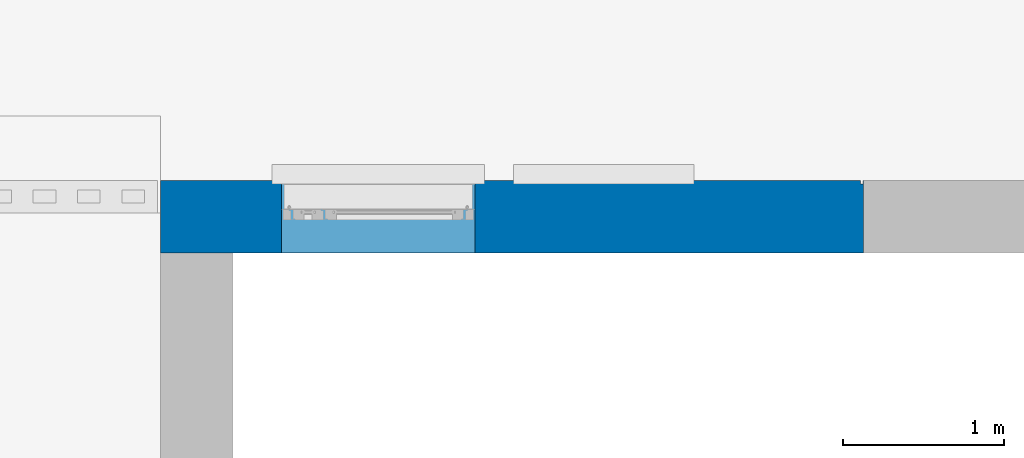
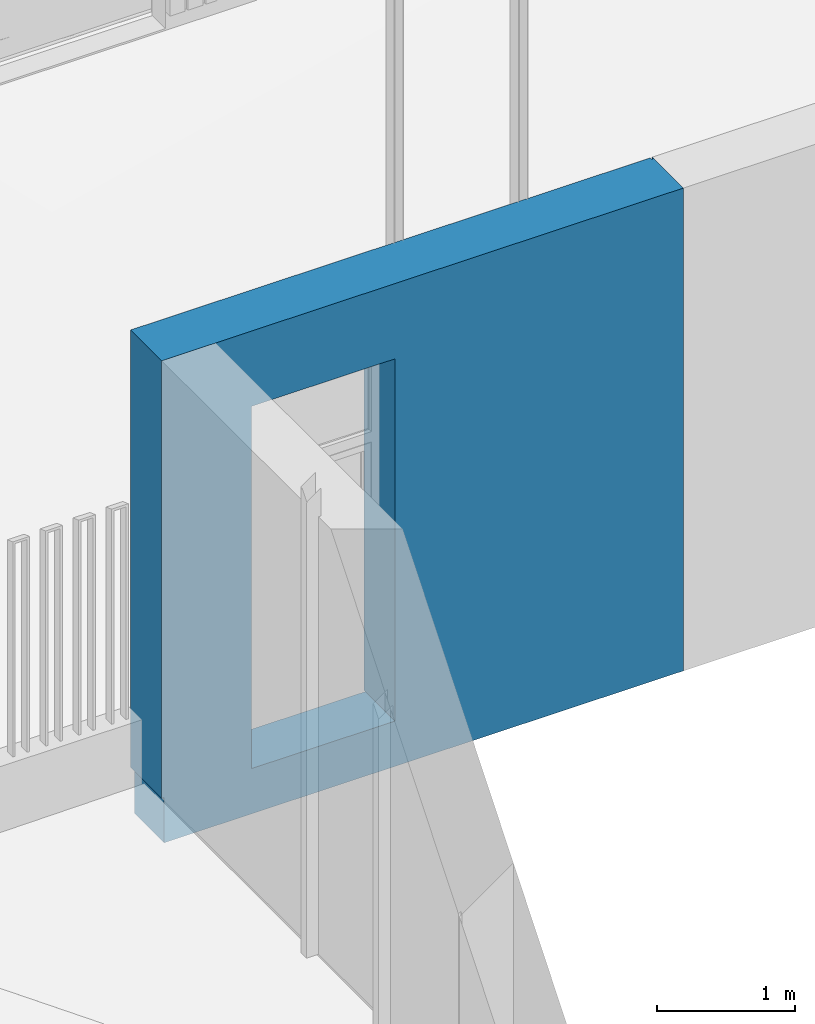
# One storey, part 23 of 77: 1 wall, 3 openings.
"""IFC2X3 building model written with IfcOpenShell, lengths in millimetres."""

import ifcopenshell
import ifcopenshell.guid

model = None  # the IFC model being written
_history = None  # IfcOwnerHistory: only IFC2X3 demands one
_inside = {}  # id of a spatial element -> (the spatial element, [elements in it])
_under = {}  # id of a project, library or spatial element -> (it, [spatial elements below it])
_declared = {}  # id of a project -> (the project, [libraries it declares])
_typed = {}  # id of a type object -> (the type object, [elements of that type])
_made_of = {}  # id of a material, layer set ... -> (it, [elements and type objects made of it])


def new_model(schema):
    """Start an empty IFC model of exactly this schema.

    Asked for "IFC4X3", IfcOpenShell would pick the latest addendum, in which some entities
    have other attributes; the version numbers below select the first issue.
    IFC2X3 requires an IfcOwnerHistory on every rooted entity: one is made here for all.
    """
    global model, _history
    if schema == "IFC4X3":
        model = ifcopenshell.file(schema_version=(4, 3, 0, 0))
    else:
        model = ifcopenshell.file(schema=schema)
    _inside.clear()
    _under.clear()
    _declared.clear()
    _typed.clear()
    _made_of.clear()
    _history = None
    if model.schema == "IFC2X3":
        org = make("IfcOrganization", Name="unknown")
        user = make(
            "IfcPersonAndOrganization",
            ThePerson=make("IfcPerson", FamilyName="unknown"),
            TheOrganization=org,
        )
        app = make(
            "IfcApplication",
            ApplicationDeveloper=org,
            Version="unknown",
            ApplicationFullName="unknown",
            ApplicationIdentifier="unknown",
        )
        _history = make(
            "IfcOwnerHistory",
            OwningUser=user,
            OwningApplication=app,
            ChangeAction="ADDED",
            CreationDate=0,
        )
    return model


def make(cls, **values):
    """One entity of the class cls with the attributes given. An attribute that is None is left unset."""
    return model.create_entity(
        cls, **{name: value for name, value in values.items() if value is not None}
    )


def entity(cls, *values):
    """Any entity or typed value of the class cls, its attributes in the order of the schema. None: left unset."""
    e = model.create_entity(cls)
    for i, value in enumerate(values):
        if value is not None:
            e[i] = value
    return e


def rooted(cls, **values):
    """An entity with a GlobalId (a new one), such as an element, a storey or a relation."""
    return make(cls, GlobalId=ifcopenshell.guid.new(), OwnerHistory=_history, **values)


def si_unit(unit_type, name, prefix=None):
    """IfcSIUnit, for example si_unit("LENGTHUNIT", "METRE", prefix="MILLI")."""
    return make("IfcSIUnit", UnitType=unit_type, Prefix=prefix, Name=name)


def converted_unit(unit_type, name, factor, base, dimensions=None, offset=None):
    """IfcConversionBasedUnit, such as the inch: factor (a typed value) times the base unit."""
    return make(
        "IfcConversionBasedUnit"
        if offset is None
        else "IfcConversionBasedUnitWithOffset",
        ConversionOffset=offset,
        Dimensions=None
        if dimensions is None
        else entity("IfcDimensionalExponents", *dimensions),
        UnitType=unit_type,
        Name=name,
        ConversionFactor=make(
            "IfcMeasureWithUnit", ValueComponent=factor, UnitComponent=base
        ),
    )


def derived_unit(unit_type, elements):
    """IfcDerivedUnit: a product of units, each with its exponent."""
    return make(
        "IfcDerivedUnit",
        Elements=[
            make("IfcDerivedUnitElement", Unit=unit, Exponent=power)
            for unit, power in elements
        ],
        UnitType=unit_type,
    )


def assignment(units):
    """IfcUnitAssignment: the units of a project."""
    return None if units is None else make("IfcUnitAssignment", Units=units)


def point(xyz):
    """IfcCartesianPoint."""
    return None if xyz is None else make("IfcCartesianPoint", Coordinates=xyz)


def direction(xyz):
    """IfcDirection."""
    return None if xyz is None else make("IfcDirection", DirectionRatios=xyz)


def frame(location, z_axis=None, x_axis=None):
    """IfcAxis2Placement3D, a coordinate frame: its origin and axes. An axis left out is left unset."""
    return make(
        "IfcAxis2Placement3D",
        Location=point(location),
        Axis=direction(z_axis),
        RefDirection=direction(x_axis),
    )


def frame_2d(location, x_axis=None):
    """IfcAxis2Placement2D, a coordinate frame in the plane: its origin and x axis."""
    return make(
        "IfcAxis2Placement2D", Location=point(location), RefDirection=direction(x_axis)
    )


def origin():
    """The frame at (0, 0, 0) with its axes left unset."""
    return frame((0.0, 0.0, 0.0))


def place(relative_to, where):
    """IfcLocalPlacement: puts the frame where relative to a parent placement (None: the world)."""
    return make(
        "IfcLocalPlacement", PlacementRelTo=relative_to, RelativePlacement=where
    )


def context(
    kind, dimensions, precision=None, world=None, true_north=None, identifier=None
):
    """IfcGeometricRepresentationContext, for example the 3D "Model" context."""
    return make(
        "IfcGeometricRepresentationContext",
        ContextIdentifier=identifier,
        ContextType=kind,
        CoordinateSpaceDimension=dimensions,
        Precision=precision,
        WorldCoordinateSystem=world,
        TrueNorth=true_north,
    )


def subcontext(parent, identifier, kind, view, scale=None):
    """IfcGeometricRepresentationSubContext, for example "Body" below "Model"."""
    return make(
        "IfcGeometricRepresentationSubContext",
        ContextIdentifier=identifier,
        ContextType=kind,
        ParentContext=parent,
        TargetScale=scale,
        TargetView=view,
    )


def project(units=None, contexts=None):
    """IfcProject with its units and contexts."""
    return rooted(
        "IfcProject",
        Name="project",
        RepresentationContexts=contexts,
        UnitsInContext=assignment(units),
    )


def spatial(cls, under=None, at=None, **own):
    """A site, building, storey or space (cls), placed at a placement, below another one or the project."""
    s = rooted(cls, ObjectPlacement=at, **own)
    if under is not None:
        _under.setdefault(under.id(), (under, []))[1].append(s)
    return s


def profile(cls, at=None, kind="AREA", **sizes):
    """A parametric profile (cls). Its sizes go by their IFC names, for example OverallWidth=200.0."""
    return make(cls, ProfileType=kind, Position=at, **sizes)


def rectangle(**sizes):
    """IfcRectangleProfileDef."""
    return profile("IfcRectangleProfileDef", **sizes)


def extrude(swept, where, along, depth):
    """IfcExtrudedAreaSolid: the profile swept, set in the frame where, extruded along a direction by depth."""
    return make(
        "IfcExtrudedAreaSolid",
        SweptArea=swept,
        Position=where,
        ExtrudedDirection=direction(along),
        Depth=depth,
    )


def faces_of(points, faces, orient=None, outer=None):
    """IfcFace entities. A face is a list of loops; a loop is a list of indices into points, from 0.

    orient and outer hold one flag for each loop. By default every Orientation is true, the
    first loop of a face is its IfcFaceOuterBound and the others are IfcFaceBound.
    """
    made = []
    for i, loops in enumerate(faces):
        bounds = []
        for j, loop in enumerate(loops):
            is_outer = j == 0 if outer is None else outer[i][j]
            bounds.append(
                make(
                    "IfcFaceOuterBound" if is_outer else "IfcFaceBound",
                    Bound=make("IfcPolyLoop", Polygon=[points[k] for k in loop]),
                    Orientation=True if orient is None else orient[i][j],
                )
            )
        made.append(make("IfcFace", Bounds=bounds))
    return made


def faceted_brep(points, faces, orient=None, outer=None, voids=None):
    """IfcFacetedBrep: a solid bounded by flat faces; with voids (closed shells), ...WithVoids."""
    shared = [point(p) for p in points]
    hull = make("IfcClosedShell", CfsFaces=faces_of(shared, faces, orient, outer))
    if voids is None:
        return make("IfcFacetedBrep", Outer=hull)
    return make(
        "IfcFacetedBrepWithVoids",
        Outer=hull,
        Voids=[
            make(cls, CfsFaces=faces_of(shared, fs, o, b)) for cls, fs, o, b in voids
        ],
    )


def shape(context_of_items, identifier, shape_type, items):
    """IfcShapeRepresentation: the items that make up one representation, for example the "Body"."""
    return make(
        "IfcShapeRepresentation",
        ContextOfItems=context_of_items,
        RepresentationIdentifier=identifier,
        RepresentationType=shape_type,
        Items=items,
    )


def material(Name=None, Category=None):
    """IfcMaterial."""
    return make("IfcMaterial", Name=Name, Category=Category)


def layer(
    of_material, thickness, ventilated=None, Name=None, Category=None, Priority=None
):
    """IfcMaterialLayer: one layer of a wall or slab, of a material (None: an air gap)."""
    return make(
        "IfcMaterialLayer",
        Material=of_material,
        LayerThickness=thickness,
        IsVentilated=ventilated,
        Name=Name,
        Category=Category,
        Priority=Priority,
    )


def layer_set(layers, Name=None):
    """IfcMaterialLayerSet."""
    return make("IfcMaterialLayerSet", MaterialLayers=layers, LayerSetName=Name)


def layer_usage(for_layer_set, set_direction, sense, offset, extent=None):
    """IfcMaterialLayerSetUsage: how a layer set lies in its element."""
    return make(
        "IfcMaterialLayerSetUsage",
        ForLayerSet=for_layer_set,
        LayerSetDirection=set_direction,
        DirectionSense=sense,
        OffsetFromReferenceLine=offset,
        ReferenceExtent=extent,
    )


def made_of(thing, what):
    """Note that an element or type object is made of a material, layer set ...; save() writes the relation."""
    if what is not None:
        _made_of.setdefault(what.id(), (what, []))[1].append(thing)
    return thing


def type_object(cls, material=None, **own):
    """A type object (cls), such as IfcWallType, which elements share."""
    return made_of(rooted(cls, **own), material)


def element(
    cls,
    number,
    at=None,
    inside=None,
    cuts=None,
    type_object=None,
    material=None,
    context=None,
    identifier="Body",
    shape_type=None,
    held_by="IfcProductDefinitionShape",
    body=None,
    shapes=None,
    **own,
):
    """One element of the class cls, such as IfcWall. Its Tag is "e" and its number.

    at: its placement. inside: the storey or other place that contains it. cuts: it is an
    opening in that element (IfcRelVoidsElement). A single representation is given by context,
    identifier, shape_type and body (its items); several are given by shapes. held_by: the class
    of the entity that holds the representations. save() writes the other relations.
    """
    e = rooted(cls, Tag="e%d" % number, ObjectPlacement=at, **own)
    if body is not None:
        shapes = [shape(context, identifier, shape_type, body)]
    if shapes is not None:
        e.Representation = make(held_by, Representations=shapes)
    if inside is not None:
        _inside.setdefault(inside.id(), (inside, []))[1].append(e)
    if cuts is not None:
        rooted(
            "IfcRelVoidsElement", RelatingBuildingElement=cuts, RelatedOpeningElement=e
        )
    if type_object is not None:
        _typed.setdefault(type_object.id(), (type_object, []))[1].append(e)
    return made_of(e, material)


def aggregate(whole, parts):
    """IfcRelAggregates: a whole, such as a stair, and the parts it consists of."""
    return rooted("IfcRelAggregates", RelatingObject=whole, RelatedObjects=parts)


def save(model, path):
    """Write the relations noted so far, then the file.

    IfcRelAggregates (storeys below a building ...), IfcRelContainedInSpatialStructure (elements
    in a storey), IfcRelDefinesByType, IfcRelAssociatesMaterial and IfcRelDeclares: one each for
    every whole, place, type object, material and project.
    """
    for whole, parts in _under.values():
        aggregate(whole, parts)
    for where, things in _inside.values():
        rooted(
            "IfcRelContainedInSpatialStructure",
            RelatedElements=things,
            RelatingStructure=where,
        )
    for kind, things in _typed.values():
        rooted("IfcRelDefinesByType", RelatedObjects=things, RelatingType=kind)
    for what, things in _made_of.values():
        rooted("IfcRelAssociatesMaterial", RelatedObjects=things, RelatingMaterial=what)
    for by, libraries in _declared.values():
        rooted("IfcRelDeclares", RelatingContext=by, RelatedDefinitions=libraries)
    model.write(path)


model = new_model("IFC2X3")

# Units and contexts
model_context = context("Model", 3, precision=0.01, world=origin(), true_north=direction((6.12303176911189e-17, 1.0)))
body_context = subcontext(model_context, "Body", "Model", "MODEL_VIEW")
ifc_project = project(units=[si_unit("LENGTHUNIT", "METRE", prefix="MILLI"), si_unit("AREAUNIT", "SQUARE_METRE"), si_unit("VOLUMEUNIT", "CUBIC_METRE"), converted_unit("PLANEANGLEUNIT", "DEGREE", entity("IfcRatioMeasure", 0.0174532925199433), si_unit("PLANEANGLEUNIT", "RADIAN"), dimensions=[0, 0, 0, 0, 0, 0, 0]), si_unit("MASSUNIT", "GRAM", prefix="KILO"), derived_unit("MASSDENSITYUNIT", [(si_unit("MASSUNIT", "GRAM", prefix="KILO"), 1), (si_unit("LENGTHUNIT", "METRE"), -3)]), si_unit("TIMEUNIT", "SECOND"), si_unit("FREQUENCYUNIT", "HERTZ"), si_unit("THERMODYNAMICTEMPERATUREUNIT", "DEGREE_CELSIUS"), derived_unit("THERMALTRANSMITTANCEUNIT", [(si_unit("MASSUNIT", "GRAM", prefix="KILO"), 1), (si_unit("THERMODYNAMICTEMPERATUREUNIT", "KELVIN"), -1), (si_unit("TIMEUNIT", "SECOND"), -3)]), derived_unit("VOLUMETRICFLOWRATEUNIT", [(si_unit("LENGTHUNIT", "METRE"), 3), (si_unit("TIMEUNIT", "SECOND"), -1)]), si_unit("ELECTRICCURRENTUNIT", "AMPERE"), si_unit("ELECTRICVOLTAGEUNIT", "VOLT"), si_unit("POWERUNIT", "WATT"), si_unit("FORCEUNIT", "NEWTON", prefix="KILO"), si_unit("ILLUMINANCEUNIT", "LUX"), si_unit("LUMINOUSFLUXUNIT", "LUMEN"), si_unit("LUMINOUSINTENSITYUNIT", "CANDELA"), derived_unit("USERDEFINED", [(si_unit("MASSUNIT", "GRAM", prefix="KILO"), -1), (si_unit("LENGTHUNIT", "METRE"), -2), (si_unit("TIMEUNIT", "SECOND"), 3), (si_unit("LUMINOUSFLUXUNIT", "LUMEN"), 1)]), derived_unit("LINEARVELOCITYUNIT", [(si_unit("LENGTHUNIT", "METRE"), 1), (si_unit("TIMEUNIT", "SECOND"), -1)]), si_unit("PRESSUREUNIT", "PASCAL"), derived_unit("USERDEFINED", [(si_unit("LENGTHUNIT", "METRE"), -2), (si_unit("MASSUNIT", "GRAM", prefix="KILO"), 1), (si_unit("TIMEUNIT", "SECOND"), -2)])], contexts=[model_context])

# Site, building, storey
site_placement = place(None, origin())
site = spatial("IfcSite", under=ifc_project, at=site_placement, Name="Default", CompositionType="ELEMENT")
building_placement = place(site_placement, origin())
building = spatial("IfcBuilding", under=site, at=building_placement, CompositionType="ELEMENT")
storey_placement = place(building_placement, origin())
storey = spatial("IfcBuildingStorey", under=building, at=storey_placement, Name="1. KORRUS", CompositionType="ELEMENT", Elevation=0.0)

# Wall, openings
ifc_material_1 = material(Name="RECKLI 1 173 THUR by Polantis 2016-toon4")
ifc_layer_1 = layer(ifc_material_1, 100.0)
ifc_material_2 = material(Name="Soojusisolatsioon EPS")
ifc_layer_2 = layer(ifc_material_2, 200.0)
ifc_material_3 = material(Name="r/b")
ifc_layer_3 = layer(ifc_material_3, 150.0)
ifc_layer_set = layer_set([ifc_layer_1, ifc_layer_2, ifc_layer_3], Name="Basic Wall:VS-1_toon-a")
ifc_layer_usage = layer_usage(ifc_layer_set, "AXIS2", "NEGATIVE", 225.0)
wall_type = type_object("IfcWallType", Name="Basic Wall:VS-1_toon-a", PredefinedType="STANDARD", material=ifc_layer_set)
wall_placement = place(storey_placement, frame((-450.0, 27825.0, -400.0)))
wall = element("IfcWallStandardCase", 1, at=wall_placement, inside=storey, type_object=wall_type, material=ifc_layer_usage, Name="Basic Wall:VS-1_toon-a", ObjectType="Basic Wall:VS-1_toon-a", context=body_context, shape_type="SweptSolid", body=[
    extrude(rectangle(XDim=4360.0, YDim=450.000000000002, at=frame_2d((2180.0, -1.46371803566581e-12), x_axis=(-1.0, 0.0))), origin(), (0.0, 0.0, 1.0), 4265.0),
])
opening_1_placement = place(wall_placement, origin())
element("IfcOpeningElement", 2, at=opening_1_placement, cuts=wall, Name="Basic Wall:VS-1_toon-a", ObjectType="Opening", context=body_context, shape_type="Brep", body=[
    faceted_brep([(20.0, 205.0, 400.0), (20.0, 205.0, 0.0), (0.0, 225.0, 0.0), (0.0, 225.0, 400.0), (20.0, -4535.0, 400.0), (0.0, -4535.0, 400.0), (0.0, -4535.0, 0.0), (20.0, -4535.0, 0.0)], [[[0, 1, 2, 3]], [[4, 5, 6, 7]], [[1, 0, 4, 7]], [[2, 1, 7, 6]], [[3, 2, 6, 5]], [[0, 3, 5, 4]]]),
    faceted_brep([(20.0, 205.0, 400.0), (0.0, 225.0, 400.0), (0.0, 225.0, 0.0), (20.0, 205.0, 0.0), (4360.0, 205.0, 400.0), (4360.0, 205.0, 0.0), (4360.0, 225.0, 0.0), (4360.0, 225.0, 400.0)], [[[0, 1, 2, 3]], [[4, 5, 6, 7]], [[1, 0, 4, 7]], [[2, 1, 7, 6]], [[3, 2, 6, 5]], [[0, 3, 5, 4]]]),
    faceted_brep([(10080.0, 205.0, 400.0), (10100.0, 225.0, 400.0), (10100.0, 225.0, 0.0), (10080.0, 205.0, 0.0), (10080.0, -5894.94821928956, 400.0), (10080.0, -5894.94821928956, 0.0), (10100.0, -5874.94821928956, 0.0), (10100.0, -5874.94821928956, 400.0)], [[[0, 1, 2, 3]], [[4, 5, 6, 7]], [[1, 0, 4, 7]], [[2, 1, 7, 6]], [[3, 2, 6, 5]], [[0, 3, 5, 4]]]),
    faceted_brep([(14800.0, -5894.94821928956, 400.0), (14800.0, -5874.94821928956, 400.0), (14800.0, -5874.94821928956, 0.0), (14800.0, -5894.94821928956, 0.0), (15330.0, -5894.94821928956, 400.0), (15330.0, -5894.94821928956, 0.0), (15330.0, -5874.94821928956, 0.0), (15330.0, -5874.94821928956, 400.0)], [[[0, 1, 2, 3]], [[4, 5, 6, 7]], [[1, 0, 4, 7]], [[2, 1, 7, 6]], [[3, 2, 6, 5]], [[0, 3, 5, 4]]]),
    faceted_brep([(40380.0, -5894.94821928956, 400.0), (40400.0, -5874.94821928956, 400.0), (40400.0, -5874.94821928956, 0.0), (40380.0, -5894.94821928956, 0.0), (40380.0, -12035.0, 400.0), (40380.0, -12035.0, 0.0), (40400.0, -12035.0, 0.0), (40400.0, -12035.0, 400.0)], [[[0, 1, 2, 3]], [[4, 5, 6, 7]], [[1, 0, 4, 7]], [[2, 1, 7, 6]], [[3, 2, 6, 5]], [[0, 3, 5, 4]]]),
    faceted_brep([(40380.0, -28255.0, 400.0), (40400.0, -28275.0, 400.0), (40400.0, -28275.0, 0.0), (40380.0, -28255.0, 0.0), (35250.0, -28255.0, 400.0), (35250.0, -28255.0, 0.0), (35250.0, -28275.0, 0.0), (35250.0, -28275.0, 400.0)], [[[0, 1, 2, 3]], [[4, 5, 6, 7]], [[1, 0, 4, 7]], [[2, 1, 7, 6]], [[3, 2, 6, 5]], [[0, 3, 5, 4]]]),
    faceted_brep([(11850.0, -28255.0, 400.0), (11850.0, -28275.0, 400.0), (11850.0, -28275.0, 0.0), (11850.0, -28255.0, 0.0), (8065.0, -28255.0, 400.0), (8065.0, -28255.0, 0.0), (8065.0, -28275.0, 0.0), (8065.0, -28275.0, 400.0)], [[[0, 1, 2, 3]], [[4, 5, 6, 7]], [[1, 0, 4, 7]], [[2, 1, 7, 6]], [[3, 2, 6, 5]], [[0, 3, 5, 4]]]),
    faceted_brep([(40380.0, -15065.0, 400.0), (40400.0, -15065.0, 400.0), (40400.0, -15065.0, 0.0), (40380.0, -15065.0, 0.0), (40380.0, -19181.6699999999, 400.0), (40380.0, -19181.6699999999, 0.0), (40400.0, -19181.6699999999, 0.0), (40400.0, -19181.6699999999, 400.0)], [[[0, 1, 2, 3]], [[4, 5, 6, 7]], [[1, 0, 4, 7]], [[2, 1, 7, 6]], [[3, 2, 6, 5]], [[0, 3, 5, 4]]]),
    faceted_brep([(31650.0, -28255.0, 400.0), (31650.0, -28275.0, 400.0), (31650.0, -28275.0, 0.0), (31650.0, -28255.0, 0.0), (29250.0, -28255.0, 400.0), (29250.0, -28255.0, 0.0), (29250.0, -28275.0, 0.0), (29250.0, -28275.0, 400.0)], [[[0, 1, 2, 3]], [[4, 5, 6, 7]], [[1, 0, 4, 7]], [[2, 1, 7, 6]], [[3, 2, 6, 5]], [[0, 3, 5, 4]]]),
    faceted_brep([(4240.03082375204, -28255.0, 400.0), (4240.03082375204, -28275.0, 400.0), (4240.03082375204, -28275.0, 0.0), (4240.03082375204, -28255.0, 0.0), (1755.03082375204, -28255.0, 400.0), (1755.03082375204, -28255.0, 0.0), (1755.03082375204, -28275.0, 0.0), (1755.03082375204, -28275.0, 400.0)], [[[0, 1, 2, 3]], [[4, 5, 6, 7]], [[1, 0, 4, 7]], [[2, 1, 7, 6]], [[3, 2, 6, 5]], [[0, 3, 5, 4]]]),
    faceted_brep([(16450.0, -28255.0, 400.0), (16450.0, -28275.0, 400.0), (16450.0, -28275.0, 0.0), (16450.0, -28255.0, 0.0), (15450.0, -28255.0, 400.0), (15450.0, -28255.0, 0.0), (15450.0, -28275.0, 0.0), (15450.0, -28275.0, 400.0)], [[[0, 1, 2, 3]], [[4, 5, 6, 7]], [[1, 0, 4, 7]], [[2, 1, 7, 6]], [[3, 2, 6, 5]], [[0, 3, 5, 4]]]),
    faceted_brep([(21050.0316629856, -28255.0, 400.0), (21050.0316629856, -28275.0, 400.0), (21050.0316629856, -28275.0, 0.0), (21050.0316629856, -28255.0, 0.0), (20050.0, -28255.0, 400.0), (20050.0, -28255.0, 0.0), (20050.0, -28275.0, 0.0), (20050.0, -28275.0, 400.0)], [[[0, 1, 2, 3]], [[4, 5, 6, 7]], [[1, 0, 4, 7]], [[2, 1, 7, 6]], [[3, 2, 6, 5]], [[0, 3, 5, 4]]]),
    faceted_brep([(25650.0316629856, -28255.0, 400.0), (25650.0316629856, -28275.0, 400.0), (25650.0316629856, -28275.0, 0.0), (25650.0316629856, -28255.0, 0.0), (24650.0, -28255.0, 400.0), (24650.0, -28255.0, 0.0), (24650.0, -28275.0, 0.0), (24650.0, -28275.0, 400.0)], [[[0, 1, 2, 3]], [[4, 5, 6, 7]], [[1, 0, 4, 7]], [[2, 1, 7, 6]], [[3, 2, 6, 5]], [[0, 3, 5, 4]]]),
    faceted_brep([(40380.0, -23410.0, 400.0), (40400.0, -23410.0, 400.0), (40400.0, -23410.0, 0.0), (40380.0, -23410.0, 0.0), (40380.0, -28255.0, 400.0), (40380.0, -28255.0, 0.0), (40400.0, -28275.0, 0.0), (40400.0, -28275.0, 400.0)], [[[0, 1, 2, 3]], [[4, 5, 6, 7]], [[1, 0, 4, 7]], [[2, 1, 7, 6]], [[3, 2, 6, 5]], [[0, 3, 5, 4]]]),
    faceted_brep([(40380.0, -19181.6699999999, 400.0), (40400.0, -19181.6699999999, 400.0), (40400.0, -19181.6699999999, 0.0), (40380.0, -19181.6699999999, 0.0), (40380.0, -23410.0, 400.0), (40380.0, -23410.0, 0.0), (40400.0, -23410.0, 0.0), (40400.0, -23410.0, 400.0)], [[[0, 1, 2, 3]], [[4, 5, 6, 7]], [[1, 0, 4, 7]], [[2, 1, 7, 6]], [[3, 2, 6, 5]], [[0, 3, 5, 4]]]),
    faceted_brep([(40380.0, -12035.0, 400.0), (40400.0, -12035.0, 400.0), (40400.0, -12035.0, 0.0), (40380.0, -12035.0, 0.0), (40380.0, -15065.0, 400.0), (40380.0, -15065.0, 0.0), (40400.0, -15065.0, 0.0), (40400.0, -15065.0, 400.0)], [[[0, 1, 2, 3]], [[4, 5, 6, 7]], [[1, 0, 4, 7]], [[2, 1, 7, 6]], [[3, 2, 6, 5]], [[0, 3, 5, 4]]]),
    faceted_brep([(34420.1035702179, -5894.94821928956, 400.0), (34420.1035702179, -5874.94821928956, 400.0), (34420.1035702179, -5874.94821928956, 0.0), (34420.1035702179, -5894.94821928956, 0.0), (40380.0, -5894.94821928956, 400.0), (40380.0, -5894.94821928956, 0.0), (40400.0, -5874.94821928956, 0.0), (40400.0, -5874.94821928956, 400.0)], [[[0, 1, 2, 3]], [[4, 5, 6, 7]], [[1, 0, 4, 7]], [[2, 1, 7, 6]], [[3, 2, 6, 5]], [[0, 3, 5, 4]]]),
    faceted_brep([(29113.2161487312, -5894.94821928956, 400.0), (29113.2161487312, -5874.94821928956, 400.0), (29113.2161487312, -5874.94821928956, 0.0), (29113.2161487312, -5894.94821928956, 0.0), (34420.1035702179, -5894.94821928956, 400.0), (34420.1035702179, -5894.94821928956, 0.0), (34420.1035702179, -5874.94821928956, 0.0), (34420.1035702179, -5874.94821928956, 400.0)], [[[0, 1, 2, 3]], [[4, 5, 6, 7]], [[1, 0, 4, 7]], [[2, 1, 7, 6]], [[3, 2, 6, 5]], [[0, 3, 5, 4]]]),
    faceted_brep([(8065.0, -28255.0, 400.0), (8065.0, -28275.0, 400.0), (8065.0, -28275.0, 0.0), (8065.0, -28255.0, 0.0), (4240.03082375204, -28255.0, 400.0), (4240.03082375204, -28255.0, 0.0), (4240.03082375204, -28275.0, 0.0), (4240.03082375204, -28275.0, 400.0)], [[[0, 1, 2, 3]], [[4, 5, 6, 7]], [[1, 0, 4, 7]], [[2, 1, 7, 6]], [[3, 2, 6, 5]], [[0, 3, 5, 4]]]),
    faceted_brep([(22535.0, -5894.94821928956, 400.0), (22535.0, -5874.94821928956, 400.0), (22535.0, -5874.94821928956, 0.0), (22535.0, -5894.94821928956, 0.0), (29113.2161487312, -5894.94821928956, 400.0), (29113.2161487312, -5894.94821928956, 0.0), (29113.2161487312, -5874.94821928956, 0.0), (29113.2161487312, -5874.94821928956, 400.0)], [[[0, 1, 2, 3]], [[4, 5, 6, 7]], [[1, 0, 4, 7]], [[2, 1, 7, 6]], [[3, 2, 6, 5]], [[0, 3, 5, 4]]]),
    faceted_brep([(18703.3528910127, -5894.94821928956, 400.0), (18703.3528910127, -5874.94821928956, 400.0), (18703.3528910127, -5874.94821928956, 0.0), (18703.3528910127, -5894.94821928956, 0.0), (22535.0, -5894.94821928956, 400.0), (22535.0, -5894.94821928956, 0.0), (22535.0, -5874.94821928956, 0.0), (22535.0, -5874.94821928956, 400.0)], [[[0, 1, 2, 3]], [[4, 5, 6, 7]], [[1, 0, 4, 7]], [[2, 1, 7, 6]], [[3, 2, 6, 5]], [[0, 3, 5, 4]]]),
    faceted_brep([(15330.0, -5894.94821928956, 400.0), (15330.0, -5874.94821928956, 400.0), (15330.0, -5874.94821928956, 0.0), (15330.0, -5894.94821928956, 0.0), (18703.3528910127, -5894.94821928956, 400.0), (18703.3528910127, -5894.94821928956, 0.0), (18703.3528910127, -5874.94821928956, 0.0), (18703.3528910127, -5874.94821928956, 400.0)], [[[0, 1, 2, 3]], [[4, 5, 6, 7]], [[1, 0, 4, 7]], [[2, 1, 7, 6]], [[3, 2, 6, 5]], [[0, 3, 5, 4]]]),
    faceted_brep([(4360.0, 205.0, 400.0), (4360.0, 225.0, 400.0), (4360.0, 225.0, 0.0), (4360.0, 205.0, 0.0), (10080.0, 205.0, 400.0), (10080.0, 205.0, 0.0), (10100.0, 225.0, 0.0), (10100.0, 225.0, 400.0)], [[[0, 1, 2, 3]], [[4, 5, 6, 7]], [[1, 0, 4, 7]], [[2, 1, 7, 6]], [[3, 2, 6, 5]], [[0, 3, 5, 4]]]),
    faceted_brep([(20.0, -4535.0, 400.0), (20.0, -4535.0, 0.0), (0.0, -4535.0, 0.0), (0.0, -4535.0, 400.0), (20.0, -10084.9993027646, 400.0), (0.0, -10084.9993027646, 400.0), (0.0, -10084.9993027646, 0.0), (20.0, -10084.9993027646, 0.0)], [[[0, 1, 2, 3]], [[4, 5, 6, 7]], [[1, 0, 4, 7]], [[2, 1, 7, 6]], [[3, 2, 6, 5]], [[0, 3, 5, 4]]]),
    faceted_brep([(20.0, -10084.9993027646, 400.0), (20.0, -10084.9993027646, 0.0), (0.0, -10084.9993027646, 0.0), (0.0, -10084.9993027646, 400.0), (20.0, -15025.0, 400.0), (0.0, -15025.0, 400.0), (0.0, -15025.0, 0.0), (20.0, -15025.0, 0.0)], [[[0, 1, 2, 3]], [[4, 5, 6, 7]], [[1, 0, 4, 7]], [[2, 1, 7, 6]], [[3, 2, 6, 5]], [[0, 3, 5, 4]]]),
    faceted_brep([(10080.0, -5894.94821928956, 400.0), (10100.0, -5874.94821928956, 400.0), (10100.0, -5874.94821928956, 0.0), (10080.0, -5894.94821928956, 0.0), (11200.0, -5894.94821928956, 400.0), (11200.0, -5894.94821928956, 0.0), (11200.0, -5874.94821928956, 0.0), (11200.0, -5874.94821928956, 400.0)], [[[0, 1, 2, 3]], [[4, 5, 6, 7]], [[1, 0, 4, 7]], [[2, 1, 7, 6]], [[3, 2, 6, 5]], [[0, 3, 5, 4]]]),
])
opening_2_placement = place(wall_placement, origin())
element("IfcOpeningElement", 3, at=opening_2_placement, cuts=wall, Name="Basic Wall:VS-1_toon-a", ObjectType="Recess", context=body_context, shape_type="SweptSolid", body=[
    extrude(rectangle(XDim=4265.0, YDim=16.0000000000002, at=frame_2d((0.0, -2.70450328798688e-13), x_axis=(1.0, 0.0))), frame((4349.95631181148, 205.0, 2132.5), z_axis=(0.0, 1.0, 0.0), x_axis=(0.0, 0.0, 1.0)), (0.0, 0.0, 1.0), 19.9999999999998),
    extrude(rectangle(XDim=4835.0, YDim=16.0000000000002, at=frame_2d((2.27373675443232e-13, -2.70450328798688e-13), x_axis=(1.0, 0.0))), frame((4349.95631181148, 205.0, 6682.5), z_axis=(0.0, 1.0, 0.0), x_axis=(0.0, 0.0, 1.0)), (0.0, 0.0, 1.0), 19.9999999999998),
])
opening_3_placement = place(wall_placement, frame((750.0, -225.0, 400.0)))
element("IfcOpeningElement", 4, at=opening_3_placement, cuts=wall, Name="Door_klaas-alumiinium-2p-ebasym-ylaframuug:VU12-1_1200x3200:1", ObjectType="Opening", context=body_context, shape_type="SweptSolid", body=[
    extrude(rectangle(XDim=3200.00000000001, YDim=1199.99999999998, at=frame_2d((1600.00000000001, 599.999999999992), x_axis=(-1.0, 0.0))), frame((0.0, 0.0, 0.0), z_axis=(0.0, 1.0, 0.0), x_axis=(0.0, 0.0, 1.0)), (0.0, 0.0, 1.0), 450.0),
])

save(model, "model.ifc")
